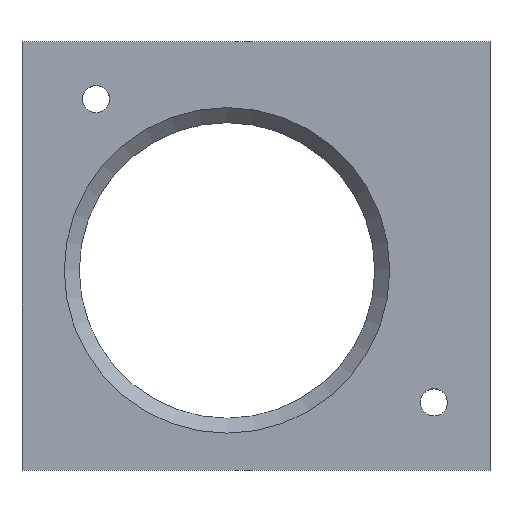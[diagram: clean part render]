
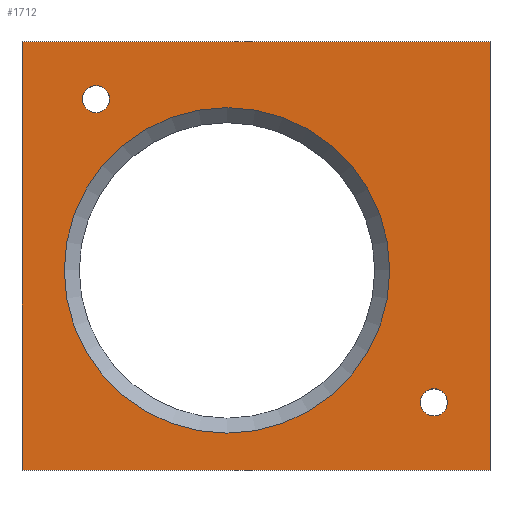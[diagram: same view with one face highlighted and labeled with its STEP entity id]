
A CAD part, top view. The second image highlights one B-rep face of the part: STEP entity #1712.
In plain terms, the highlighted planar face has unit normal (0, 0, 1).
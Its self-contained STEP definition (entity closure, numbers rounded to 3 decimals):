
#32 = PLANE('',#33);
#33 = AXIS2_PLACEMENT_3D('',#34,#35,#36);
#34 = CARTESIAN_POINT('',(12.5,11.45,0.));
#35 = DIRECTION('',(0.,-1.,0.));
#36 = DIRECTION('',(-1.,0.,0.));
#57 = VERTEX_POINT('',#58);
#58 = CARTESIAN_POINT('',(-12.5,11.45,0.));
#72 = PLANE('',#73);
#73 = AXIS2_PLACEMENT_3D('',#74,#75,#76);
#74 = CARTESIAN_POINT('',(-12.5,-11.45,0.));
#75 = DIRECTION('',(-1.,0.,0.));
#76 = DIRECTION('',(0.,1.,0.));
#84 = EDGE_CURVE('',#85,#57,#87,.T.);
#85 = VERTEX_POINT('',#86);
#86 = CARTESIAN_POINT('',(12.5,11.45,0.));
#87 = SURFACE_CURVE('',#88,(#92,#99),.PCURVE_S1.);
#88 = LINE('',#89,#90);
#89 = CARTESIAN_POINT('',(6.375,11.45,
    0.));
#90 = VECTOR('',#91,1.);
#91 = DIRECTION('',(-1.,0.,0.));
#92 = PCURVE('',#32,#93);
#93 = DEFINITIONAL_REPRESENTATION('',(#94),#98);
#94 = LINE('',#95,#96);
#95 = CARTESIAN_POINT('',(6.125,0.));
#96 = VECTOR('',#97,1.);
#97 = DIRECTION('',(1.,0.));
#98 = ( GEOMETRIC_REPRESENTATION_CONTEXT(2) 
PARAMETRIC_REPRESENTATION_CONTEXT() REPRESENTATION_CONTEXT('2D SPACE',''
  ) );
#99 = PCURVE('',#100,#105);
#100 = PLANE('',#101);
#101 = AXIS2_PLACEMENT_3D('',#102,#103,#104);
#102 = CARTESIAN_POINT('',(0.25,0.214,
    0.));
#103 = DIRECTION('',(0.,0.,1.));
#104 = DIRECTION('',(-1.,0.,0.));
#105 = DEFINITIONAL_REPRESENTATION('',(#106),#110);
#106 = LINE('',#107,#108);
#107 = CARTESIAN_POINT('',(-6.125,-11.236));
#108 = VECTOR('',#109,1.);
#109 = DIRECTION('',(1.,0.));
#110 = ( GEOMETRIC_REPRESENTATION_CONTEXT(2) 
PARAMETRIC_REPRESENTATION_CONTEXT() REPRESENTATION_CONTEXT('2D SPACE',''
  ) );
#126 = PLANE('',#127);
#127 = AXIS2_PLACEMENT_3D('',#128,#129,#130);
#128 = CARTESIAN_POINT('',(12.5,-11.45,0.));
#129 = DIRECTION('',(-1.,0.,0.));
#130 = DIRECTION('',(0.,1.,0.));
#165 = EDGE_CURVE('',#166,#85,#168,.T.);
#166 = VERTEX_POINT('',#167);
#167 = CARTESIAN_POINT('',(12.5,-11.45,0.));
#168 = SURFACE_CURVE('',#169,(#173,#180),.PCURVE_S1.);
#169 = LINE('',#170,#171);
#170 = CARTESIAN_POINT('',(12.5,-5.618,0.));
#171 = VECTOR('',#172,1.);
#172 = DIRECTION('',(0.,1.,0.));
#173 = PCURVE('',#126,#174);
#174 = DEFINITIONAL_REPRESENTATION('',(#175),#179);
#175 = LINE('',#176,#177);
#176 = CARTESIAN_POINT('',(5.832,0.));
#177 = VECTOR('',#178,1.);
#178 = DIRECTION('',(1.,0.));
#179 = ( GEOMETRIC_REPRESENTATION_CONTEXT(2) 
PARAMETRIC_REPRESENTATION_CONTEXT() REPRESENTATION_CONTEXT('2D SPACE',''
  ) );
#180 = PCURVE('',#100,#181);
#181 = DEFINITIONAL_REPRESENTATION('',(#182),#186);
#182 = LINE('',#183,#184);
#183 = CARTESIAN_POINT('',(-12.25,5.832));
#184 = VECTOR('',#185,1.);
#185 = DIRECTION('',(0.,-1.));
#186 = ( GEOMETRIC_REPRESENTATION_CONTEXT(2) 
PARAMETRIC_REPRESENTATION_CONTEXT() REPRESENTATION_CONTEXT('2D SPACE',''
  ) );
#202 = PLANE('',#203);
#203 = AXIS2_PLACEMENT_3D('',#204,#205,#206);
#204 = CARTESIAN_POINT('',(12.6,-11.45,
    0.));
#205 = DIRECTION('',(0.,-1.,0.));
#206 = DIRECTION('',(-1.,0.,0.));
#242 = VERTEX_POINT('',#243);
#243 = CARTESIAN_POINT('',(-12.5,-11.45,0.));
#264 = EDGE_CURVE('',#57,#242,#265,.T.);
#265 = SURFACE_CURVE('',#266,(#270,#277),.PCURVE_S1.);
#266 = LINE('',#267,#268);
#267 = CARTESIAN_POINT('',(-12.5,11.477,0.));
#268 = VECTOR('',#269,1.);
#269 = DIRECTION('',(0.,-1.,0.));
#270 = PCURVE('',#72,#271);
#271 = DEFINITIONAL_REPRESENTATION('',(#272),#276);
#272 = LINE('',#273,#274);
#273 = CARTESIAN_POINT('',(22.927,0.));
#274 = VECTOR('',#275,1.);
#275 = DIRECTION('',(-1.,0.));
#276 = ( GEOMETRIC_REPRESENTATION_CONTEXT(2) 
PARAMETRIC_REPRESENTATION_CONTEXT() REPRESENTATION_CONTEXT('2D SPACE',''
  ) );
#277 = PCURVE('',#100,#278);
#278 = DEFINITIONAL_REPRESENTATION('',(#279),#283);
#279 = LINE('',#280,#281);
#280 = CARTESIAN_POINT('',(12.75,-11.264));
#281 = VECTOR('',#282,1.);
#282 = DIRECTION('',(0.,1.));
#283 = ( GEOMETRIC_REPRESENTATION_CONTEXT(2) 
PARAMETRIC_REPRESENTATION_CONTEXT() REPRESENTATION_CONTEXT('2D SPACE',''
  ) );
#779 = CYLINDRICAL_SURFACE('',#780,0.725);
#780 = AXIS2_PLACEMENT_3D('',#781,#782,#783);
#781 = CARTESIAN_POINT('',(-8.55,8.377,-2.613));
#782 = DIRECTION('',(0.,0.,-1.));
#783 = DIRECTION('',(1.,0.,0.));
#1066 = CYLINDRICAL_SURFACE('',#1067,0.725);
#1067 = AXIS2_PLACEMENT_3D('',#1068,#1069,#1070);
#1068 = CARTESIAN_POINT('',(9.5,-7.823,-2.613));
#1069 = DIRECTION('',(0.,0.,-1.));
#1070 = DIRECTION('',(1.,0.,0.));
#1200 = VERTEX_POINT('',#1201);
#1201 = CARTESIAN_POINT('',(8.775,-7.823,
    0.));
#1224 = EDGE_CURVE('',#1200,#1200,#1225,.T.);
#1225 = SURFACE_CURVE('',#1226,(#1231,#1238),.PCURVE_S1.);
#1226 = CIRCLE('',#1227,0.725);
#1227 = AXIS2_PLACEMENT_3D('',#1228,#1229,#1230);
#1228 = CARTESIAN_POINT('',(9.5,-7.823,
    0.));
#1229 = DIRECTION('',(0.,0.,-1.));
#1230 = DIRECTION('',(1.,0.,0.));
#1231 = PCURVE('',#1066,#1232);
#1232 = DEFINITIONAL_REPRESENTATION('',(#1233),#1237);
#1233 = LINE('',#1234,#1235);
#1234 = CARTESIAN_POINT('',(0.,-2.613));
#1235 = VECTOR('',#1236,1.);
#1236 = DIRECTION('',(1.,0.));
#1237 = ( GEOMETRIC_REPRESENTATION_CONTEXT(2) 
PARAMETRIC_REPRESENTATION_CONTEXT() REPRESENTATION_CONTEXT('2D SPACE',''
  ) );
#1238 = PCURVE('',#100,#1239);
#1239 = DEFINITIONAL_REPRESENTATION('',(#1240),#1248);
#1240 = ( BOUNDED_CURVE() B_SPLINE_CURVE(2,(#1241,#1242,#1243,#1244,
#1245,#1246,#1247),.UNSPECIFIED.,.T.,.F.) B_SPLINE_CURVE_WITH_KNOTS((1,2
    ,2,2,2,1),(-2.094,0.,2.094,4.189,
6.283,8.378),.UNSPECIFIED.) CURVE() 
GEOMETRIC_REPRESENTATION_ITEM() RATIONAL_B_SPLINE_CURVE((1.,0.5,1.,0.5,
1.,0.5,1.)) REPRESENTATION_ITEM('') );
#1241 = CARTESIAN_POINT('',(-9.975,8.036));
#1242 = CARTESIAN_POINT('',(-9.975,9.292));
#1243 = CARTESIAN_POINT('',(-8.888,8.664));
#1244 = CARTESIAN_POINT('',(-7.8,8.036));
#1245 = CARTESIAN_POINT('',(-8.888,7.409));
#1246 = CARTESIAN_POINT('',(-9.975,6.781));
#1247 = CARTESIAN_POINT('',(-9.975,8.036));
#1248 = ( GEOMETRIC_REPRESENTATION_CONTEXT(2) 
PARAMETRIC_REPRESENTATION_CONTEXT() REPRESENTATION_CONTEXT('2D SPACE',''
  ) );
#1612 = VERTEX_POINT('',#1613);
#1613 = CARTESIAN_POINT('',(7.145,-0.773,
    0.));
#1622 = CONICAL_SURFACE('',#1623,8.294,0.785);
#1623 = AXIS2_PLACEMENT_3D('',#1624,#1625,#1626);
#1624 = CARTESIAN_POINT('',(-1.55,-0.773,-0.4));
#1625 = DIRECTION('',(0.,0.,1.));
#1626 = DIRECTION('',(-1.,0.,0.));
#1664 = EDGE_CURVE('',#1612,#1612,#1665,.T.);
#1665 = SURFACE_CURVE('',#1666,(#1671,#1678),.PCURVE_S1.);
#1666 = CIRCLE('',#1667,8.694);
#1667 = AXIS2_PLACEMENT_3D('',#1668,#1669,#1670);
#1668 = CARTESIAN_POINT('',(-1.55,-0.773,
    0.));
#1669 = DIRECTION('',(0.,0.,1.));
#1670 = DIRECTION('',(-1.,0.,0.));
#1671 = PCURVE('',#1622,#1672);
#1672 = DEFINITIONAL_REPRESENTATION('',(#1673),#1677);
#1673 = LINE('',#1674,#1675);
#1674 = CARTESIAN_POINT('',(0.,0.4));
#1675 = VECTOR('',#1676,1.);
#1676 = DIRECTION('',(1.,0.));
#1677 = ( GEOMETRIC_REPRESENTATION_CONTEXT(2) 
PARAMETRIC_REPRESENTATION_CONTEXT() REPRESENTATION_CONTEXT('2D SPACE',''
  ) );
#1678 = PCURVE('',#100,#1679);
#1679 = DEFINITIONAL_REPRESENTATION('',(#1680),#1684);
#1680 = CIRCLE('',#1681,8.694);
#1681 = AXIS2_PLACEMENT_2D('',#1682,#1683);
#1682 = CARTESIAN_POINT('',(1.8,0.986));
#1683 = DIRECTION('',(1.,0.));
#1684 = ( GEOMETRIC_REPRESENTATION_CONTEXT(2) 
PARAMETRIC_REPRESENTATION_CONTEXT() REPRESENTATION_CONTEXT('2D SPACE',''
  ) );
#1712 = ADVANCED_FACE('',(#1713,#1739,#1742,#1772),#100,.T.);
#1713 = FACE_BOUND('',#1714,.T.);
#1714 = EDGE_LOOP('',(#1715,#1716,#1717,#1738));
#1715 = ORIENTED_EDGE('',*,*,#84,.T.);
#1716 = ORIENTED_EDGE('',*,*,#264,.T.);
#1717 = ORIENTED_EDGE('',*,*,#1718,.T.);
#1718 = EDGE_CURVE('',#242,#166,#1719,.T.);
#1719 = SURFACE_CURVE('',#1720,(#1724,#1731),.PCURVE_S1.);
#1720 = LINE('',#1721,#1722);
#1721 = CARTESIAN_POINT('',(-12.5,-11.45,0.));
#1722 = VECTOR('',#1723,1.);
#1723 = DIRECTION('',(1.,0.,0.));
#1724 = PCURVE('',#100,#1725);
#1725 = DEFINITIONAL_REPRESENTATION('',(#1726),#1730);
#1726 = LINE('',#1727,#1728);
#1727 = CARTESIAN_POINT('',(12.75,11.664));
#1728 = VECTOR('',#1729,1.);
#1729 = DIRECTION('',(-1.,0.));
#1730 = ( GEOMETRIC_REPRESENTATION_CONTEXT(2) 
PARAMETRIC_REPRESENTATION_CONTEXT() REPRESENTATION_CONTEXT('2D SPACE',''
  ) );
#1731 = PCURVE('',#202,#1732);
#1732 = DEFINITIONAL_REPRESENTATION('',(#1733),#1737);
#1733 = LINE('',#1734,#1735);
#1734 = CARTESIAN_POINT('',(25.1,0.));
#1735 = VECTOR('',#1736,1.);
#1736 = DIRECTION('',(-1.,-0.));
#1737 = ( GEOMETRIC_REPRESENTATION_CONTEXT(2) 
PARAMETRIC_REPRESENTATION_CONTEXT() REPRESENTATION_CONTEXT('2D SPACE',''
  ) );
#1738 = ORIENTED_EDGE('',*,*,#165,.T.);
#1739 = FACE_BOUND('',#1740,.T.);
#1740 = EDGE_LOOP('',(#1741));
#1741 = ORIENTED_EDGE('',*,*,#1224,.T.);
#1742 = FACE_BOUND('',#1743,.T.);
#1743 = EDGE_LOOP('',(#1744));
#1744 = ORIENTED_EDGE('',*,*,#1745,.T.);
#1745 = EDGE_CURVE('',#1746,#1746,#1748,.T.);
#1746 = VERTEX_POINT('',#1747);
#1747 = CARTESIAN_POINT('',(-9.275,8.377,
    0.));
#1748 = SURFACE_CURVE('',#1749,(#1754,#1765),.PCURVE_S1.);
#1749 = CIRCLE('',#1750,0.725);
#1750 = AXIS2_PLACEMENT_3D('',#1751,#1752,#1753);
#1751 = CARTESIAN_POINT('',(-8.55,8.377,
    0.));
#1752 = DIRECTION('',(0.,0.,-1.));
#1753 = DIRECTION('',(1.,0.,0.));
#1754 = PCURVE('',#100,#1755);
#1755 = DEFINITIONAL_REPRESENTATION('',(#1756),#1764);
#1756 = ( BOUNDED_CURVE() B_SPLINE_CURVE(2,(#1757,#1758,#1759,#1760,
#1761,#1762,#1763),.UNSPECIFIED.,.T.,.F.) B_SPLINE_CURVE_WITH_KNOTS((1,2
    ,2,2,2,1),(-2.094,0.,2.094,4.189,
6.283,8.378),.UNSPECIFIED.) CURVE() 
GEOMETRIC_REPRESENTATION_ITEM() RATIONAL_B_SPLINE_CURVE((1.,0.5,1.,0.5,
1.,0.5,1.)) REPRESENTATION_ITEM('') );
#1757 = CARTESIAN_POINT('',(8.075,-8.164));
#1758 = CARTESIAN_POINT('',(8.075,-6.908));
#1759 = CARTESIAN_POINT('',(9.162,-7.536));
#1760 = CARTESIAN_POINT('',(10.25,-8.164));
#1761 = CARTESIAN_POINT('',(9.162,-8.791));
#1762 = CARTESIAN_POINT('',(8.075,-9.419));
#1763 = CARTESIAN_POINT('',(8.075,-8.164));
#1764 = ( GEOMETRIC_REPRESENTATION_CONTEXT(2) 
PARAMETRIC_REPRESENTATION_CONTEXT() REPRESENTATION_CONTEXT('2D SPACE',''
  ) );
#1765 = PCURVE('',#779,#1766);
#1766 = DEFINITIONAL_REPRESENTATION('',(#1767),#1771);
#1767 = LINE('',#1768,#1769);
#1768 = CARTESIAN_POINT('',(0.,-2.613));
#1769 = VECTOR('',#1770,1.);
#1770 = DIRECTION('',(1.,0.));
#1771 = ( GEOMETRIC_REPRESENTATION_CONTEXT(2) 
PARAMETRIC_REPRESENTATION_CONTEXT() REPRESENTATION_CONTEXT('2D SPACE',''
  ) );
#1772 = FACE_BOUND('',#1773,.T.);
#1773 = EDGE_LOOP('',(#1774));
#1774 = ORIENTED_EDGE('',*,*,#1664,.F.);
